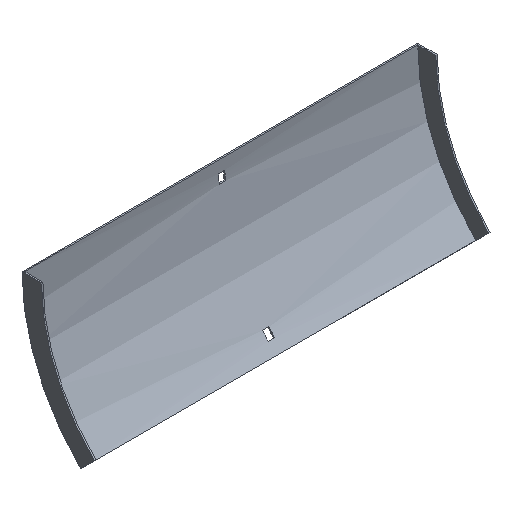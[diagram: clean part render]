
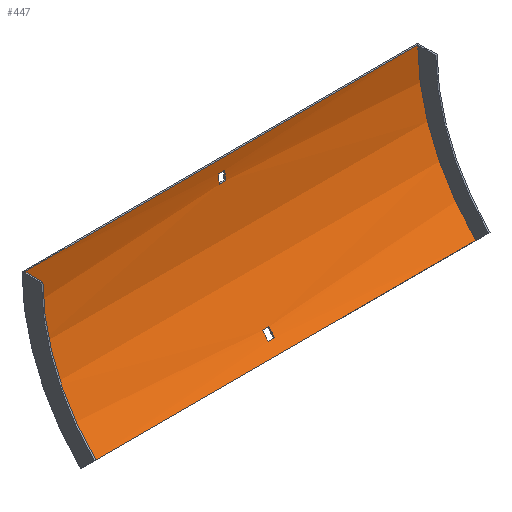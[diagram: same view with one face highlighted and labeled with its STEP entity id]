
A CAD part, isometric view. The second image highlights one B-rep face of the part: STEP entity #447.
In plain terms, the highlighted cylindrical face has radius 204 mm (diameter 408 mm), a partial arc.
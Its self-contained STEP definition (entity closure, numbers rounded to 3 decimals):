
#13 = CYLINDRICAL_SURFACE ( 'NONE', #22, 204. ) ;
#17 = ORIENTED_EDGE ( 'NONE', *, *, #535, .T. ) ;
#18 = DIRECTION ( 'NONE',  ( 0., 0., -1. ) ) ;
#21 = CIRCLE ( 'NONE', #146, 204. ) ;
#22 = AXIS2_PLACEMENT_3D ( 'NONE', #196, #435, #387 ) ;
#24 = CARTESIAN_POINT ( 'NONE',  ( -3.25, -1.853, -12. ) ) ;
#34 = CARTESIAN_POINT ( 'NONE',  ( 3.25, -47.167, -128.634 ) ) ;
#42 = VERTEX_POINT ( 'NONE', #365 ) ;
#45 = AXIS2_PLACEMENT_3D ( 'NONE', #288, #112, #18 ) ;
#51 = VERTEX_POINT ( 'NONE', #468 ) ;
#52 = DIRECTION ( 'NONE',  ( -1., 0., 0. ) ) ;
#60 = CARTESIAN_POINT ( 'NONE',  ( -3.25, -47.167, -128.634 ) ) ;
#66 = LINE ( 'NONE', #102, #186 ) ;
#74 = VECTOR ( 'NONE', #246, 1000. ) ;
#75 = AXIS2_PLACEMENT_3D ( 'NONE', #152, #338, #531 ) ;
#84 = CARTESIAN_POINT ( 'NONE',  ( 3.25, -2.584, -21. ) ) ;
#91 = CIRCLE ( 'NONE', #249, 204. ) ;
#101 = FACE_BOUND ( 'NONE', #283, .T. ) ;
#102 = CARTESIAN_POINT ( 'NONE',  ( 202., -1.5, 0. ) ) ;
#103 = LINE ( 'NONE', #480, #74 ) ;
#112 = DIRECTION ( 'NONE',  ( 1., 0., 0. ) ) ;
#121 = ORIENTED_EDGE ( 'NONE', *, *, #486, .T. ) ;
#146 = AXIS2_PLACEMENT_3D ( 'NONE', #388, #485, #200 ) ;
#152 = CARTESIAN_POINT ( 'NONE',  ( -202., -205.5, 0. ) ) ;
#162 = ORIENTED_EDGE ( 'NONE', *, *, #227, .T. ) ;
#163 = DIRECTION ( 'NONE',  ( 0., 0., -1. ) ) ;
#164 = VERTEX_POINT ( 'NONE', #449 ) ;
#171 = VERTEX_POINT ( 'NONE', #548 ) ;
#173 = ORIENTED_EDGE ( 'NONE', *, *, #439, .T. ) ;
#180 = EDGE_CURVE ( 'NONE', #589, #295, #21, .T. ) ;
#182 = CARTESIAN_POINT ( 'NONE',  ( -3.25, -2.584, -21. ) ) ;
#186 = VECTOR ( 'NONE', #367, 1000. ) ;
#193 = CARTESIAN_POINT ( 'NONE',  ( 203.5, -47.167, -128.634 ) ) ;
#196 = CARTESIAN_POINT ( 'NONE',  ( 203.5, -205.5, 0. ) ) ;
#199 = CARTESIAN_POINT ( 'NONE',  ( 203.5, -53.015, -135.515 ) ) ;
#200 = DIRECTION ( 'NONE',  ( 0., 0., 1. ) ) ;
#220 = CARTESIAN_POINT ( 'NONE',  ( -3.25, -205.5, 0. ) ) ;
#227 = EDGE_CURVE ( 'NONE', #51, #254, #66, .T. ) ;
#229 = EDGE_CURVE ( 'NONE', #42, #164, #284, .T. ) ;
#236 = AXIS2_PLACEMENT_3D ( 'NONE', #290, #525, #441 ) ;
#239 = ORIENTED_EDGE ( 'NONE', *, *, #359, .F. ) ;
#246 = DIRECTION ( 'NONE',  ( 1., 0., 0. ) ) ;
#249 = AXIS2_PLACEMENT_3D ( 'NONE', #220, #263, #163 ) ;
#254 = VERTEX_POINT ( 'NONE', #473 ) ;
#256 = LINE ( 'NONE', #296, #420 ) ;
#257 = EDGE_LOOP ( 'NONE', ( #173, #17, #121, #371 ) ) ;
#263 = DIRECTION ( 'NONE',  ( 1., 0., 0. ) ) ;
#283 = EDGE_LOOP ( 'NONE', ( #437, #239, #502, #596 ) ) ;
#284 = LINE ( 'NONE', #467, #352 ) ;
#287 = DIRECTION ( 'NONE',  ( 0., 0., 1. ) ) ;
#288 = CARTESIAN_POINT ( 'NONE',  ( 3.25, -205.5, 0. ) ) ;
#290 = CARTESIAN_POINT ( 'NONE',  ( 202., -205.5, 0. ) ) ;
#293 = EDGE_LOOP ( 'NONE', ( #553, #541, #551, #162 ) ) ;
#295 = VERTEX_POINT ( 'NONE', #324 ) ;
#296 = CARTESIAN_POINT ( 'NONE',  ( 203.5, -1.853, -12. ) ) ;
#302 = CIRCLE ( 'NONE', #45, 204. ) ;
#324 = CARTESIAN_POINT ( 'NONE',  ( 3.25, -53.015, -135.515 ) ) ;
#336 = DIRECTION ( 'NONE',  ( -1., 0., 0. ) ) ;
#338 = DIRECTION ( 'NONE',  ( 1., 0., 0. ) ) ;
#349 = VERTEX_POINT ( 'NONE', #182 ) ;
#352 = VECTOR ( 'NONE', #52, 1000. ) ;
#359 = EDGE_CURVE ( 'NONE', #171, #421, #256, .T. ) ;
#365 = CARTESIAN_POINT ( 'NONE',  ( 202., -61.25, -144.25 ) ) ;
#367 = DIRECTION ( 'NONE',  ( -1., 0., 0. ) ) ;
#371 = ORIENTED_EDGE ( 'NONE', *, *, #180, .T. ) ;
#383 = CIRCLE ( 'NONE', #236, 204. ) ;
#384 = DIRECTION ( 'NONE',  ( 1., 0., 0. ) ) ;
#387 = DIRECTION ( 'NONE',  ( 0., 0., 1. ) ) ;
#388 = CARTESIAN_POINT ( 'NONE',  ( 3.25, -205.5, 0. ) ) ;
#391 = CARTESIAN_POINT ( 'NONE',  ( -3.25, -205.5, 0. ) ) ;
#392 = VECTOR ( 'NONE', #397, 1000. ) ;
#397 = DIRECTION ( 'NONE',  ( -1., 0., 0. ) ) ;
#404 = EDGE_CURVE ( 'NONE', #547, #171, #302, .T. ) ;
#405 = CIRCLE ( 'NONE', #75, 204. ) ;
#413 = EDGE_CURVE ( 'NONE', #42, #51, #383, .T. ) ;
#419 = EDGE_CURVE ( 'NONE', #349, #547, #103, .T. ) ;
#420 = VECTOR ( 'NONE', #336, 1000. ) ;
#421 = VERTEX_POINT ( 'NONE', #24 ) ;
#429 = FACE_BOUND ( 'NONE', #257, .T. ) ;
#431 = VERTEX_POINT ( 'NONE', #60 ) ;
#432 = LINE ( 'NONE', #193, #524 ) ;
#435 = DIRECTION ( 'NONE',  ( -1., 0., 0. ) ) ;
#437 = ORIENTED_EDGE ( 'NONE', *, *, #457, .F. ) ;
#439 = EDGE_CURVE ( 'NONE', #295, #607, #536, .T. ) ;
#441 = DIRECTION ( 'NONE',  ( 0., 0., 1. ) ) ;
#447 = ADVANCED_FACE ( 'NONE', ( #101, #489, #429 ), #13, .F. ) ;
#449 = CARTESIAN_POINT ( 'NONE',  ( -202., -61.25, -144.25 ) ) ;
#457 = EDGE_CURVE ( 'NONE', #421, #349, #575, .T. ) ;
#467 = CARTESIAN_POINT ( 'NONE',  ( 202., -61.25, -144.25 ) ) ;
#468 = CARTESIAN_POINT ( 'NONE',  ( 202., -1.5, 0. ) ) ;
#473 = CARTESIAN_POINT ( 'NONE',  ( -202., -1.5, 0. ) ) ;
#480 = CARTESIAN_POINT ( 'NONE',  ( 203.5, -2.584, -21. ) ) ;
#485 = DIRECTION ( 'NONE',  ( -1., 0., 0. ) ) ;
#486 = EDGE_CURVE ( 'NONE', #431, #589, #432, .T. ) ;
#489 = FACE_OUTER_BOUND ( 'NONE', #293, .T. ) ;
#493 = AXIS2_PLACEMENT_3D ( 'NONE', #391, #581, #287 ) ;
#502 = ORIENTED_EDGE ( 'NONE', *, *, #404, .F. ) ;
#513 = EDGE_CURVE ( 'NONE', #164, #254, #405, .T. ) ;
#524 = VECTOR ( 'NONE', #384, 1000. ) ;
#525 = DIRECTION ( 'NONE',  ( 1., 0., 0. ) ) ;
#531 = DIRECTION ( 'NONE',  ( 0., 0., 1. ) ) ;
#535 = EDGE_CURVE ( 'NONE', #607, #431, #91, .T. ) ;
#536 = LINE ( 'NONE', #199, #392 ) ;
#541 = ORIENTED_EDGE ( 'NONE', *, *, #229, .F. ) ;
#547 = VERTEX_POINT ( 'NONE', #84 ) ;
#548 = CARTESIAN_POINT ( 'NONE',  ( 3.25, -1.853, -12. ) ) ;
#551 = ORIENTED_EDGE ( 'NONE', *, *, #413, .T. ) ;
#553 = ORIENTED_EDGE ( 'NONE', *, *, #513, .F. ) ;
#556 = CARTESIAN_POINT ( 'NONE',  ( -3.25, -53.015, -135.515 ) ) ;
#575 = CIRCLE ( 'NONE', #493, 204. ) ;
#581 = DIRECTION ( 'NONE',  ( -1., 0., 0. ) ) ;
#589 = VERTEX_POINT ( 'NONE', #34 ) ;
#596 = ORIENTED_EDGE ( 'NONE', *, *, #419, .F. ) ;
#607 = VERTEX_POINT ( 'NONE', #556 ) ;
